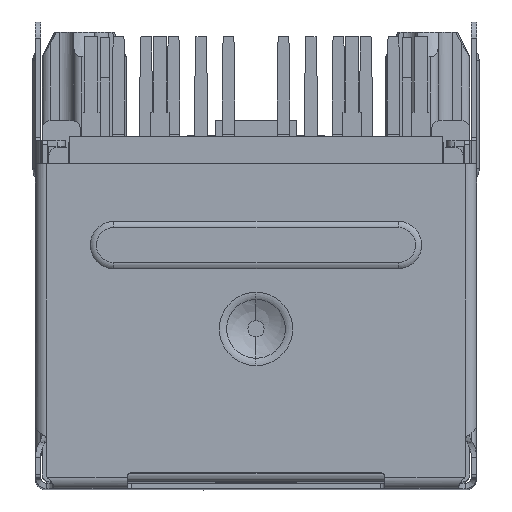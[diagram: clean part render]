
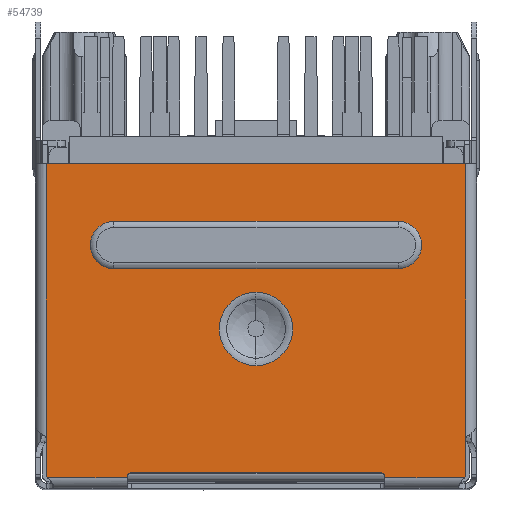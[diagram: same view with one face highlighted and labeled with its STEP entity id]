
A CAD part, top view. The second image highlights one B-rep face of the part: STEP entity #54739.
In plain terms, the highlighted planar face has unit normal (0, 0, 1).
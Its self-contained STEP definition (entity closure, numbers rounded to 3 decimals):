
#7576=DIRECTION('',(0.,-1.,0.));
#7577=VECTOR('',#7576,1.313);
#7578=CARTESIAN_POINT('',(0.154,1.443,2.32));
#7579=LINE('',#7578,#7577);
#7588=DIRECTION('',(0.,1.,0.));
#7589=VECTOR('',#7588,0.082);
#7590=CARTESIAN_POINT('',(0.154,1.443,2.32));
#7591=LINE('',#7590,#7589);
#7592=DIRECTION('',(0.,1.,0.));
#7593=VECTOR('',#7592,10.1);
#7594=CARTESIAN_POINT('',(0.154,1.525,2.32));
#7595=LINE('',#7594,#7593);
#7596=DIRECTION('',(0.,-1.,0.));
#7597=VECTOR('',#7596,10.1);
#7598=CARTESIAN_POINT('',(15.664,11.625,2.32));
#7599=LINE('',#7598,#7597);
#7600=DIRECTION('',(0.,-1.,0.));
#7601=VECTOR('',#7600,0.082);
#7602=CARTESIAN_POINT('',(15.664,1.525,2.32));
#7603=LINE('',#7602,#7601);
#7604=DIRECTION('',(0.,-1.,0.));
#7605=VECTOR('',#7604,1.313);
#7606=CARTESIAN_POINT('',(15.664,1.443,2.32));
#7607=LINE('',#7606,#7605);
#7608=CARTESIAN_POINT('',(15.514,0.131,2.32));
#7609=DIRECTION('',(0.,0.,-1.));
#7610=DIRECTION('',(1.,0.,0.));
#7611=AXIS2_PLACEMENT_3D('',#7608,#7609,#7610);
#7613=CARTESIAN_POINT('',(12.514,0.061,2.32));
#7614=DIRECTION('',(0.,0.,1.));
#7615=DIRECTION('',(1.,0.,0.));
#7616=AXIS2_PLACEMENT_3D('',#7613,#7614,#7615);
#7618=DIRECTION('',(-1.,0.,0.));
#7619=VECTOR('',#7618,9.21);
#7620=CARTESIAN_POINT('',(12.514,0.211,2.32));
#7621=LINE('',#7620,#7619);
#7622=CARTESIAN_POINT('',(3.304,0.061,2.32));
#7623=DIRECTION('',(0.,0.,1.));
#7624=DIRECTION('',(0.,1.,0.));
#7625=AXIS2_PLACEMENT_3D('',#7622,#7623,#7624);
#7627=DIRECTION('',(0.,-1.,0.));
#7628=VECTOR('',#7627,0.036);
#7629=CARTESIAN_POINT('',(3.154,0.061,2.32));
#7630=LINE('',#7629,#7628);
#7631=CARTESIAN_POINT('',(0.304,0.131,2.32));
#7632=DIRECTION('',(0.,0.,-1.));
#7633=DIRECTION('',(-0.71,-0.704,0.));
#7634=AXIS2_PLACEMENT_3D('',#7631,#7632,#7633);
#7636=CARTESIAN_POINT('',(7.909,5.525,2.32));
#7637=DIRECTION('',(0.,0.,1.));
#7638=DIRECTION('',(0.,-1.,0.));
#7639=AXIS2_PLACEMENT_3D('',#7636,#7637,#7638);
#7641=CARTESIAN_POINT('',(7.909,5.525,2.32));
#7642=DIRECTION('',(0.,0.,1.));
#7643=DIRECTION('',(0.,1.,0.));
#7644=AXIS2_PLACEMENT_3D('',#7641,#7642,#7643);
#7646=CARTESIAN_POINT('',(2.659,8.625,2.32));
#7647=DIRECTION('',(0.,0.,1.));
#7648=DIRECTION('',(0.,1.,0.));
#7649=AXIS2_PLACEMENT_3D('',#7646,#7647,#7648);
#7651=CARTESIAN_POINT('',(2.659,8.625,2.32));
#7652=DIRECTION('',(0.,0.,1.));
#7653=DIRECTION('',(-0.043,-0.999,0.));
#7654=AXIS2_PLACEMENT_3D('',#7651,#7652,#7653);
#7656=CARTESIAN_POINT('',(13.159,8.625,2.32));
#7657=DIRECTION('',(0.,0.,1.));
#7658=DIRECTION('',(0.,-1.,0.));
#7659=AXIS2_PLACEMENT_3D('',#7656,#7657,#7658);
#7661=CARTESIAN_POINT('',(13.159,8.625,2.32));
#7662=DIRECTION('',(0.,0.,1.));
#7663=DIRECTION('',(0.043,0.999,0.));
#7664=AXIS2_PLACEMENT_3D('',#7661,#7662,#7663);
#8021=DIRECTION('',(-1.,0.,0.));
#8022=VECTOR('',#8021,15.51);
#8023=CARTESIAN_POINT('',(15.664,11.625,2.32));
#8024=LINE('',#8023,#8022);
#8089=DIRECTION('',(1.,0.,0.));
#8090=VECTOR('',#8089,2.957);
#8091=CARTESIAN_POINT('',(12.664,0.025,2.32));
#8092=LINE('',#8091,#8090);
#8130=DIRECTION('',(0.,-1.,0.));
#8131=VECTOR('',#8130,0.036);
#8132=CARTESIAN_POINT('',(12.664,0.061,2.32));
#8133=LINE('',#8132,#8131);
#8177=DIRECTION('',(1.,0.,0.));
#8178=VECTOR('',#8177,2.957);
#8179=CARTESIAN_POINT('',(0.198,0.025,2.32));
#8180=LINE('',#8179,#8178);
#8327=DIRECTION('',(1.,0.,0.));
#8328=VECTOR('',#8327,10.5);
#8329=CARTESIAN_POINT('',(2.659,9.499,2.32));
#8330=LINE('',#8329,#8328);
#8345=DIRECTION('',(-1.,0.,0.));
#8346=VECTOR('',#8345,10.5);
#8347=CARTESIAN_POINT('',(13.159,7.751,2.32));
#8348=LINE('',#8347,#8346);
#35208=CARTESIAN_POINT('',(0.154,11.625,2.32));
#35209=VERTEX_POINT('',#35208);
#35212=CARTESIAN_POINT('',(0.154,1.525,2.32));
#35213=VERTEX_POINT('',#35212);
#35214=CARTESIAN_POINT('',(0.154,1.443,
2.32));
#35215=VERTEX_POINT('',#35214);
#35217=CARTESIAN_POINT('',(15.664,11.625,2.32));
#35218=VERTEX_POINT('',#35217);
#35219=CARTESIAN_POINT('',(15.664,1.525,2.32));
#35220=VERTEX_POINT('',#35219);
#35221=CARTESIAN_POINT('',(15.664,1.443,2.32));
#35222=VERTEX_POINT('',#35221);
#35223=CARTESIAN_POINT('',(15.664,0.131,
2.32));
#35224=VERTEX_POINT('',#35223);
#35225=CARTESIAN_POINT('',(15.621,0.025,2.32));
#35226=VERTEX_POINT('',#35225);
#35227=CARTESIAN_POINT('',(12.664,0.025,2.32));
#35228=VERTEX_POINT('',#35227);
#35229=CARTESIAN_POINT('',(12.664,0.061,2.32));
#35230=VERTEX_POINT('',#35229);
#35231=CARTESIAN_POINT('',(12.514,0.211,2.32));
#35232=VERTEX_POINT('',#35231);
#35233=CARTESIAN_POINT('',(3.304,0.211,2.32));
#35234=VERTEX_POINT('',#35233);
#35235=CARTESIAN_POINT('',(3.154,0.061,2.32));
#35236=VERTEX_POINT('',#35235);
#35237=CARTESIAN_POINT('',(3.154,0.025,2.32));
#35238=VERTEX_POINT('',#35237);
#35239=CARTESIAN_POINT('',(0.198,0.025,2.32));
#35240=VERTEX_POINT('',#35239);
#35241=CARTESIAN_POINT('',(0.154,0.131,2.32));
#35242=VERTEX_POINT('',#35241);
#35243=CARTESIAN_POINT('',(7.909,4.169,2.32));
#35244=CARTESIAN_POINT('',(7.909,6.881,2.32));
#35245=VERTEX_POINT('',#35243);
#35246=VERTEX_POINT('',#35244);
#35247=CARTESIAN_POINT('',(2.659,9.499,2.32));
#35248=CARTESIAN_POINT('',(2.622,7.752,2.32));
#35249=VERTEX_POINT('',#35247);
#35250=VERTEX_POINT('',#35248);
#35251=CARTESIAN_POINT('',(2.659,7.751,2.32));
#35252=VERTEX_POINT('',#35251);
#35253=CARTESIAN_POINT('',(13.159,7.751,2.32));
#35254=VERTEX_POINT('',#35253);
#35255=CARTESIAN_POINT('',(13.196,9.498,2.32));
#35256=VERTEX_POINT('',#35255);
#35257=CARTESIAN_POINT('',(13.159,9.499,2.32));
#35258=VERTEX_POINT('',#35257);
#54681=CARTESIAN_POINT('',(7.909,5.825,2.32));
#54682=DIRECTION('',(0.,0.,1.));
#54683=DIRECTION('',(1.,0.,0.));
#54684=AXIS2_PLACEMENT_3D('',#54681,#54682,#54683);
#54685=PLANE('',#54684);
#54687=ORIENTED_EDGE('',*,*,#54686,.T.);
#54689=ORIENTED_EDGE('',*,*,#54688,.T.);
#54691=ORIENTED_EDGE('',*,*,#54690,.F.);
#54693=ORIENTED_EDGE('',*,*,#54692,.T.);
#54695=ORIENTED_EDGE('',*,*,#54694,.T.);
#54697=ORIENTED_EDGE('',*,*,#54696,.T.);
#54699=ORIENTED_EDGE('',*,*,#54698,.T.);
#54701=ORIENTED_EDGE('',*,*,#54700,.F.);
#54703=ORIENTED_EDGE('',*,*,#54702,.F.);
#54705=ORIENTED_EDGE('',*,*,#54704,.T.);
#54707=ORIENTED_EDGE('',*,*,#54706,.T.);
#54709=ORIENTED_EDGE('',*,*,#54708,.T.);
#54711=ORIENTED_EDGE('',*,*,#54710,.T.);
#54713=ORIENTED_EDGE('',*,*,#54712,.F.);
#54715=ORIENTED_EDGE('',*,*,#54714,.T.);
#54716=ORIENTED_EDGE('',*,*,#54673,.F.);
#54717=EDGE_LOOP('',(#54687,#54689,#54691,#54693,#54695,#54697,#54699,#54701,
#54703,#54705,#54707,#54709,#54711,#54713,#54715,#54716));
#54718=FACE_OUTER_BOUND('',#54717,.F.);
#54720=ORIENTED_EDGE('',*,*,#54719,.T.);
#54722=ORIENTED_EDGE('',*,*,#54721,.T.);
#54723=EDGE_LOOP('',(#54720,#54722));
#54724=FACE_BOUND('',#54723,.F.);
#54726=ORIENTED_EDGE('',*,*,#54725,.T.);
#54728=ORIENTED_EDGE('',*,*,#54727,.T.);
#54730=ORIENTED_EDGE('',*,*,#54729,.F.);
#54732=ORIENTED_EDGE('',*,*,#54731,.T.);
#54734=ORIENTED_EDGE('',*,*,#54733,.T.);
#54736=ORIENTED_EDGE('',*,*,#54735,.F.);
#54737=EDGE_LOOP('',(#54726,#54728,#54730,#54732,#54734,#54736));
#54738=FACE_BOUND('',#54737,.F.);
#54739=ADVANCED_FACE('',(#54718,#54724,#54738),#54685,.T.);
#7612=CIRCLE('',#7611,0.15);
#7617=CIRCLE('',#7616,0.15);
#7626=CIRCLE('',#7625,0.15);
#7635=CIRCLE('',#7634,0.15);
#7640=CIRCLE('',#7639,1.356);
#7645=CIRCLE('',#7644,1.356);
#7650=CIRCLE('',#7649,0.874);
#7655=CIRCLE('',#7654,0.874);
#7660=CIRCLE('',#7659,0.874);
#7665=CIRCLE('',#7664,0.874);
#54673=EDGE_CURVE('',#35215,#35242,#7579,.T.);
#54686=EDGE_CURVE('',#35215,#35213,#7591,.T.);
#54688=EDGE_CURVE('',#35213,#35209,#7595,.T.);
#54690=EDGE_CURVE('',#35218,#35209,#8024,.T.);
#54692=EDGE_CURVE('',#35218,#35220,#7599,.T.);
#54694=EDGE_CURVE('',#35220,#35222,#7603,.T.);
#54696=EDGE_CURVE('',#35222,#35224,#7607,.T.);
#54698=EDGE_CURVE('',#35224,#35226,#7612,.T.);
#54700=EDGE_CURVE('',#35228,#35226,#8092,.T.);
#54702=EDGE_CURVE('',#35230,#35228,#8133,.T.);
#54704=EDGE_CURVE('',#35230,#35232,#7617,.T.);
#54706=EDGE_CURVE('',#35232,#35234,#7621,.T.);
#54708=EDGE_CURVE('',#35234,#35236,#7626,.T.);
#54710=EDGE_CURVE('',#35236,#35238,#7630,.T.);
#54712=EDGE_CURVE('',#35240,#35238,#8180,.T.);
#54714=EDGE_CURVE('',#35240,#35242,#7635,.T.);
#54719=EDGE_CURVE('',#35245,#35246,#7640,.T.);
#54721=EDGE_CURVE('',#35246,#35245,#7645,.T.);
#54725=EDGE_CURVE('',#35249,#35250,#7650,.T.);
#54727=EDGE_CURVE('',#35250,#35252,#7655,.T.);
#54729=EDGE_CURVE('',#35254,#35252,#8348,.T.);
#54731=EDGE_CURVE('',#35254,#35256,#7660,.T.);
#54733=EDGE_CURVE('',#35256,#35258,#7665,.T.);
#54735=EDGE_CURVE('',#35249,#35258,#8330,.T.);
